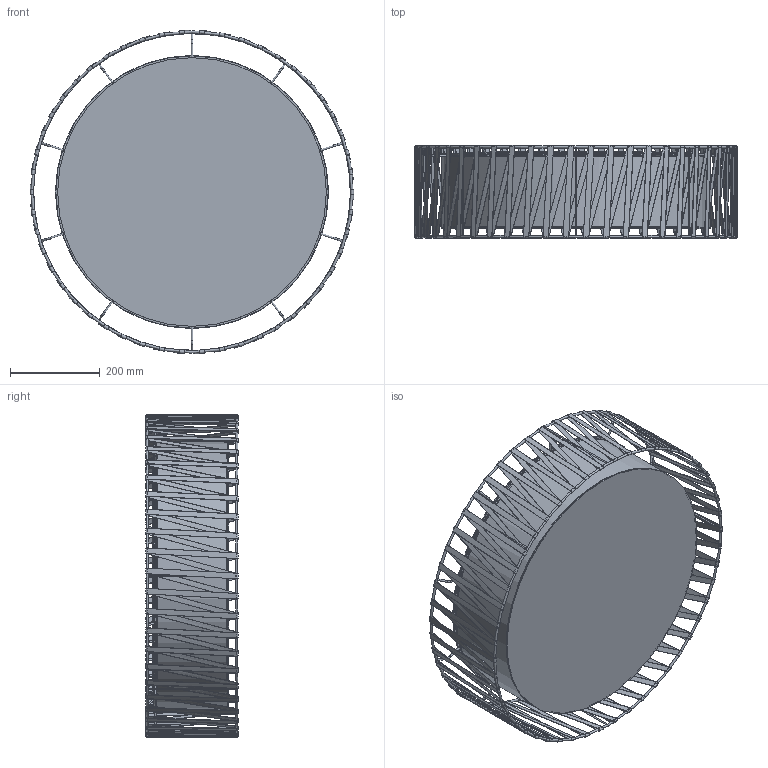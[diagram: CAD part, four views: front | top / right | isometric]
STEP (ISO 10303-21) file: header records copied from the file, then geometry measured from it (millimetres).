
FILE_DESCRIPTION(/* description */ (''),/* implementation_level */ '2;1');
FILE_NAME(/* name */ 'C:/Users/kubaw/OneDrive/Pulpit/TK_lighting - modele 2/OK/1658_HARMONY/1658_HARMONY v8.step',/* time_stamp */ '2021-03-31T19:19:44+02:00',/* author */ (''),/* organization */ (''),/* preprocessor_version */ 'ST-DEVELOPER v18.1',/* originating_system */ 'Autodesk Translation Framework v9.10.0.1330',/* authorisation */ '');
FILE_SCHEMA (('AUTOMOTIVE_DESIGN { 1 0 10303 214 3 1 1 }'));
Length unit declared in the file: millimetre
Products named in the file (2): 1658_HARMONY; MOCOWANIE HARMONY_PLAFON
Assembly tree (1 placements, depth 2):
  1658_HARMONY
    MOCOWANIE HARMONY_PLAFON
Bounding box: 721.99 x 207 x 721.93 mm (x, y, z)
Volume: 1692809.6 mm3; surface area: 2566902.9 mm2
Topology: 256 solids, 256 shells, 1649 faces, 3386 edges, 2245 vertices
Faces by surface type: plane 895, bspline 404, torus 257, cylinder 93
Full cylindrical faces by diameter (mm): 3 x8, 4 x20, 14.819 x8, 18 x1, 20 x4, 20.058 x4, 28.544 x4, 30 x4, 40 x4, 45 x4, 96 x1, 100 x1, 598 x1, 600 x2, 608 x1, 610 x1
Entity records: 49410 total; most frequent: CARTESIAN_POINT 14180, DIRECTION 7336, ORIENTED_EDGE 6772, EDGE_CURVE 3386, AXIS2_PLACEMENT_3D 2733, VERTEX_POINT 2245, LINE 1870, VECTOR 1870
